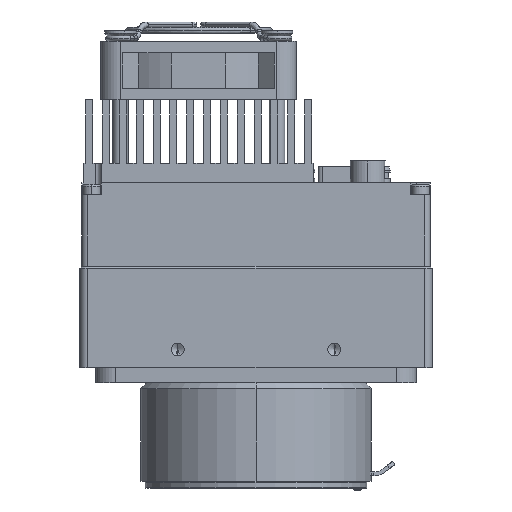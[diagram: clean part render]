
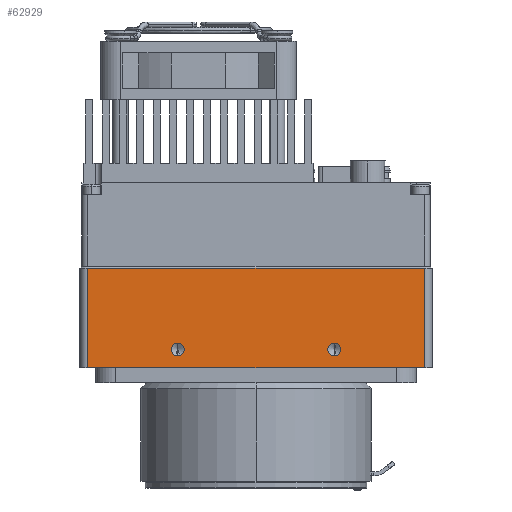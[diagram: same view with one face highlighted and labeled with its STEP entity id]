
A CAD part, left-side view. The second image highlights one B-rep face of the part: STEP entity #62929.
In plain terms, the highlighted planar face has unit normal (-1, 0, 0).
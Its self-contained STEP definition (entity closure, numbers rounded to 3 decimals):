
#1705 = CIRCLE ( 'NONE', #21348, 1.65 ) ;
#2122 = CARTESIAN_POINT ( 'NONE',  ( -57.507, -34.762, 100.18 ) ) ;
#4737 = CARTESIAN_POINT ( 'NONE',  ( -57.507, 28.238, 79.43 ) ) ;
#6461 = AXIS2_PLACEMENT_3D ( 'NONE', #123106, #70486, #83357 ) ;
#7924 = VECTOR ( 'NONE', #17895, 1000. ) ;
#10041 = ORIENTED_EDGE ( 'NONE', *, *, #62840, .T. ) ;
#11473 = EDGE_CURVE ( 'NONE', #52435, #104856, #1705, .T. ) ;
#15899 = DIRECTION ( 'NONE',  ( 0., -1., 0. ) ) ;
#16889 = DIRECTION ( 'NONE',  ( -1., 0., 0. ) ) ;
#17867 = DIRECTION ( 'NONE',  ( 0., 0., -1. ) ) ;
#17895 = DIRECTION ( 'NONE',  ( 0., 0., 1. ) ) ;
#21348 = AXIS2_PLACEMENT_3D ( 'NONE', #130549, #16889, #132229 ) ;
#25135 = CARTESIAN_POINT ( 'NONE',  ( -57.507, -11.762, 81.08 ) ) ;
#27899 = LINE ( 'NONE', #118851, #144095 ) ;
#28311 = VECTOR ( 'NONE', #159439, 1000. ) ;
#30806 = EDGE_CURVE ( 'NONE', #160708, #48942, #34837, .T. ) ;
#34837 = CIRCLE ( 'NONE', #6461, 1.65 ) ;
#36047 = VERTEX_POINT ( 'NONE', #131109 ) ;
#40088 = AXIS2_PLACEMENT_3D ( 'NONE', #4737, #94240, #70107 ) ;
#41834 = VERTEX_POINT ( 'NONE', #66900 ) ;
#42413 = VERTEX_POINT ( 'NONE', #66697 ) ;
#44254 = DIRECTION ( 'NONE',  ( 0., 0., 1. ) ) ;
#48942 = VERTEX_POINT ( 'NONE', #25135 ) ;
#51904 = CIRCLE ( 'NONE', #158095, 1.65 ) ;
#51955 = VECTOR ( 'NONE', #17867, 1000. ) ;
#52435 = VERTEX_POINT ( 'NONE', #79734 ) ;
#52753 = EDGE_LOOP ( 'NONE', ( #99492, #97741 ) ) ;
#53685 = CIRCLE ( 'NONE', #40088, 1.65 ) ;
#56951 = EDGE_LOOP ( 'NONE', ( #141121, #63271 ) ) ;
#58028 = LINE ( 'NONE', #118101, #51955 ) ;
#58261 = CARTESIAN_POINT ( 'NONE',  ( -57.507, -11.762, 79.43 ) ) ;
#58329 = CARTESIAN_POINT ( 'NONE',  ( -57.507, 28.238, 81.08 ) ) ;
#60579 = DIRECTION ( 'NONE',  ( 0., 0., -1. ) ) ;
#60899 = EDGE_CURVE ( 'NONE', #161937, #36047, #118418, .T. ) ;
#62840 = EDGE_CURVE ( 'NONE', #41834, #42413, #27899, .T. ) ;
#62929 = ADVANCED_FACE ( 'NONE', ( #112052, #164093, #108048 ), #99236, .F. ) ;
#63271 = ORIENTED_EDGE ( 'NONE', *, *, #30806, .F. ) ;
#66697 = CARTESIAN_POINT ( 'NONE',  ( -57.507, -34.762, 74.78 ) ) ;
#66900 = CARTESIAN_POINT ( 'NONE',  ( -57.507, 51.238, 74.78 ) ) ;
#69320 = CARTESIAN_POINT ( 'NONE',  ( -57.507, -34.762, 85. ) ) ;
#69923 = ORIENTED_EDGE ( 'NONE', *, *, #152212, .T. ) ;
#70107 = DIRECTION ( 'NONE',  ( 0., 0., 1. ) ) ;
#70486 = DIRECTION ( 'NONE',  ( -1., 0., 0. ) ) ;
#75562 = EDGE_CURVE ( 'NONE', #36047, #41834, #58028, .T. ) ;
#79531 = ORIENTED_EDGE ( 'NONE', *, *, #75562, .T. ) ;
#79734 = CARTESIAN_POINT ( 'NONE',  ( -57.507, 28.238, 77.78 ) ) ;
#83357 = DIRECTION ( 'NONE',  ( 0., 0., 1. ) ) ;
#83725 = CARTESIAN_POINT ( 'NONE',  ( -57.507, -36.762, 100.18 ) ) ;
#94240 = DIRECTION ( 'NONE',  ( -1., 0., 0. ) ) ;
#97741 = ORIENTED_EDGE ( 'NONE', *, *, #11473, .F. ) ;
#99236 = PLANE ( 'NONE',  #100593 ) ;
#99492 = ORIENTED_EDGE ( 'NONE', *, *, #108693, .F. ) ;
#100593 = AXIS2_PLACEMENT_3D ( 'NONE', #111009, #112105, #60579 ) ;
#104856 = VERTEX_POINT ( 'NONE', #58329 ) ;
#107879 = EDGE_CURVE ( 'NONE', #48942, #160708, #51904, .T. ) ;
#108048 = FACE_OUTER_BOUND ( 'NONE', #154467, .T. ) ;
#108693 = EDGE_CURVE ( 'NONE', #104856, #52435, #53685, .T. ) ;
#111009 = CARTESIAN_POINT ( 'NONE',  ( -57.507, -36.762, 85. ) ) ;
#112052 = FACE_BOUND ( 'NONE', #56951, .T. ) ;
#112105 = DIRECTION ( 'NONE',  ( 1., 0., 0. ) ) ;
#118101 = CARTESIAN_POINT ( 'NONE',  ( -57.507, 51.238, 85. ) ) ;
#118418 = LINE ( 'NONE', #83725, #28311 ) ;
#118851 = CARTESIAN_POINT ( 'NONE',  ( -57.507, -36.762, 74.78 ) ) ;
#123106 = CARTESIAN_POINT ( 'NONE',  ( -57.507, -11.762, 79.43 ) ) ;
#130549 = CARTESIAN_POINT ( 'NONE',  ( -57.507, 28.238, 79.43 ) ) ;
#131109 = CARTESIAN_POINT ( 'NONE',  ( -57.507, 51.238, 100.18 ) ) ;
#132139 = LINE ( 'NONE', #69320, #7924 ) ;
#132229 = DIRECTION ( 'NONE',  ( 0., 0., 1. ) ) ;
#141121 = ORIENTED_EDGE ( 'NONE', *, *, #107879, .F. ) ;
#144095 = VECTOR ( 'NONE', #15899, 1000. ) ;
#152212 = EDGE_CURVE ( 'NONE', #42413, #161937, #132139, .T. ) ;
#152644 = CARTESIAN_POINT ( 'NONE',  ( -57.507, -11.762, 77.78 ) ) ;
#154467 = EDGE_LOOP ( 'NONE', ( #69923, #159419, #79531, #10041 ) ) ;
#158095 = AXIS2_PLACEMENT_3D ( 'NONE', #58261, #161288, #44254 ) ;
#159419 = ORIENTED_EDGE ( 'NONE', *, *, #60899, .T. ) ;
#159439 = DIRECTION ( 'NONE',  ( 0., 1., 0. ) ) ;
#160708 = VERTEX_POINT ( 'NONE', #152644 ) ;
#161288 = DIRECTION ( 'NONE',  ( -1., 0., 0. ) ) ;
#161937 = VERTEX_POINT ( 'NONE', #2122 ) ;
#164093 = FACE_BOUND ( 'NONE', #52753, .T. ) ;
